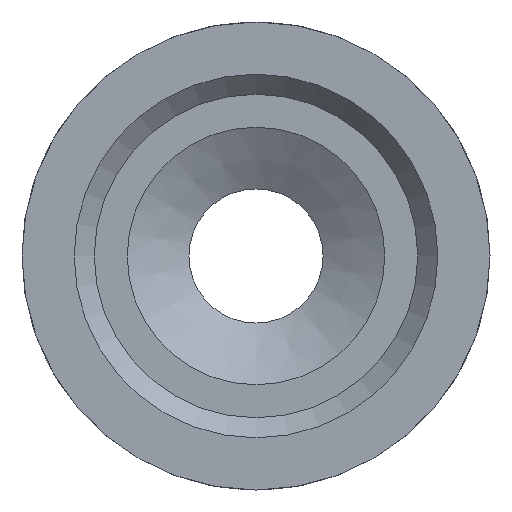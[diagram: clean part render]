
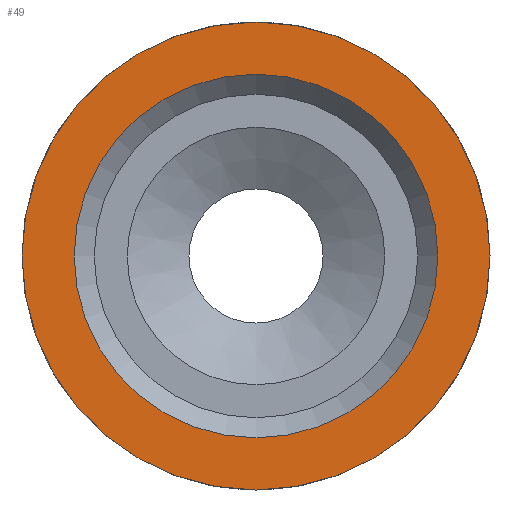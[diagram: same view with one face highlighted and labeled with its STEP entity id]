
A CAD part, front view. The second image highlights one B-rep face of the part: STEP entity #49.
In plain terms, the highlighted planar face has unit normal (0, -1, 0).
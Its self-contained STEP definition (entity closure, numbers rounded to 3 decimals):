
#49=ADVANCED_FACE('',(#158,#160),#162,.F.);
#158=FACE_BOUND('',#159,.T.);
#159=EDGE_LOOP('',(#806));
#160=FACE_BOUND('',#161,.T.);
#161=EDGE_LOOP('',(#807));
#162=PLANE('',#163);
#163=AXIS2_PLACEMENT_3D('',#164,#165,#166);
#164=CARTESIAN_POINT('',(0.,-22.2,0.));
#165=DIRECTION('',(0.,1.,0.));
#166=DIRECTION('',(0.,0.,-1.));
#806=ORIENTED_EDGE('',*,*,#1013,.F.);
#807=ORIENTED_EDGE('',*,*,#1014,.T.);
#1013=EDGE_CURVE('',#1126,#1126,#1127,.T.);
#1014=EDGE_CURVE('',#1128,#1128,#1129,.F.);
#1126=VERTEX_POINT('',#1337);
#1127=CIRCLE('',#1338,17.45);
#1128=VERTEX_POINT('',#1342);
#1129=CIRCLE('',#1343,13.559);
#1337=CARTESIAN_POINT('',(0.,-22.2,-17.45));
#1338=AXIS2_PLACEMENT_3D('',#1339,#1340,#1341);
#1339=CARTESIAN_POINT('',(0.,-22.2,0.));
#1340=DIRECTION('',(0.,1.,0.));
#1341=DIRECTION('',(0.,0.,-1.));
#1342=CARTESIAN_POINT('',(0.,-22.2,-13.559));
#1343=AXIS2_PLACEMENT_3D('',#1344,#1345,#1346);
#1344=CARTESIAN_POINT('',(0.,-22.2,0.));
#1345=DIRECTION('',(0.,-1.,0.));
#1346=DIRECTION('',(0.,0.,-1.));
